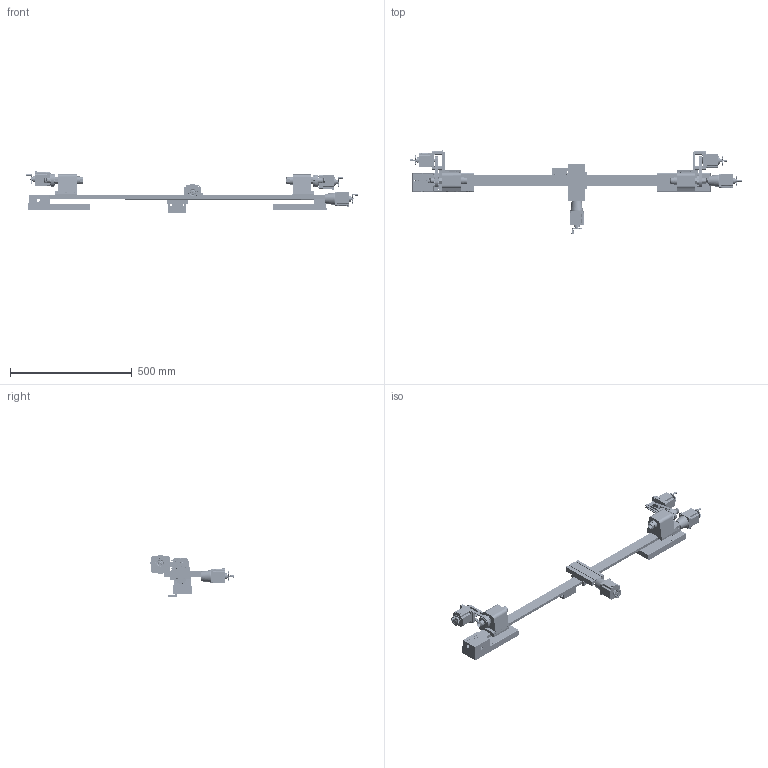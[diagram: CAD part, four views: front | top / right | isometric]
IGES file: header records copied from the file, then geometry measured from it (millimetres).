
Start section: Comment
Global section: file name:  48 in lathe with with 2 head stock.igs; native system:  By Spatial Corp.; preprocessor: XPlus PS/IGES 3.0; author: Author; organization: Title; date: 20180531.071306; units: inch
Bounding box: 1365.6 x 342.46 x 173.07 mm (x, y, z)
Surface area: 905387.2 mm2 (no closed solid volume)
Topology: 0 solids, 0 shells, 12595 faces, 63892 edges, 63870 vertices
Faces by surface type: extrusion 7068, revolution 5415, bspline 112
